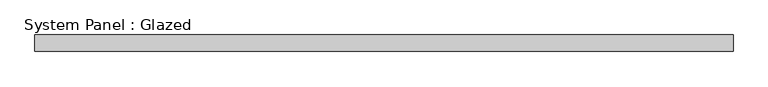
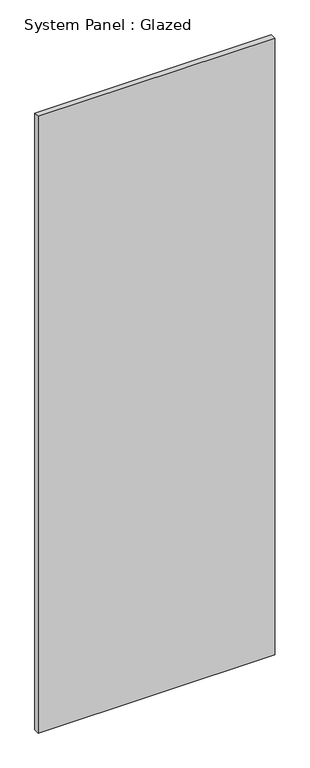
"""IFC4 building model written with IfcOpenShell, lengths in millimetres: plate geometry, System Panel : Glazed."""

import ifcopenshell
import ifcopenshell.guid

model = None  # the IFC model being written
_history = None  # IfcOwnerHistory: only IFC2X3 demands one
_inside = {}  # id of a spatial element -> (the spatial element, [elements in it])
_under = {}  # id of a project, library or spatial element -> (it, [spatial elements below it])
_declared = {}  # id of a project -> (the project, [libraries it declares])
_typed = {}  # id of a type object -> (the type object, [elements of that type])
_made_of = {}  # id of a material, layer set ... -> (it, [elements and type objects made of it])


def new_model(schema):
    """Start an empty IFC model of exactly this schema.

    Asked for "IFC4X3", IfcOpenShell would pick the latest addendum, in which some entities
    have other attributes; the version numbers below select the first issue.
    IFC2X3 requires an IfcOwnerHistory on every rooted entity: one is made here for all.
    """
    global model, _history
    if schema == "IFC4X3":
        model = ifcopenshell.file(schema_version=(4, 3, 0, 0))
    else:
        model = ifcopenshell.file(schema=schema)
    _inside.clear()
    _under.clear()
    _declared.clear()
    _typed.clear()
    _made_of.clear()
    _history = None
    if model.schema == "IFC2X3":
        org = make("IfcOrganization", Name="unknown")
        user = make(
            "IfcPersonAndOrganization",
            ThePerson=make("IfcPerson", FamilyName="unknown"),
            TheOrganization=org,
        )
        app = make(
            "IfcApplication",
            ApplicationDeveloper=org,
            Version="unknown",
            ApplicationFullName="unknown",
            ApplicationIdentifier="unknown",
        )
        _history = make(
            "IfcOwnerHistory",
            OwningUser=user,
            OwningApplication=app,
            ChangeAction="ADDED",
            CreationDate=0,
        )
    return model


def make(cls, **values):
    """One entity of the class cls with the attributes given. An attribute that is None is left unset."""
    return model.create_entity(
        cls, **{name: value for name, value in values.items() if value is not None}
    )


def rooted(cls, **values):
    """An entity with a GlobalId (a new one), such as an element, a storey or a relation."""
    return make(cls, GlobalId=ifcopenshell.guid.new(), OwnerHistory=_history, **values)


def si_unit(unit_type, name, prefix=None):
    """IfcSIUnit, for example si_unit("LENGTHUNIT", "METRE", prefix="MILLI")."""
    return make("IfcSIUnit", UnitType=unit_type, Prefix=prefix, Name=name)


def assignment(units):
    """IfcUnitAssignment: the units of a project."""
    return None if units is None else make("IfcUnitAssignment", Units=units)


def point(xyz):
    """IfcCartesianPoint."""
    return None if xyz is None else make("IfcCartesianPoint", Coordinates=xyz)


def direction(xyz):
    """IfcDirection."""
    return None if xyz is None else make("IfcDirection", DirectionRatios=xyz)


def frame(location, z_axis=None, x_axis=None):
    """IfcAxis2Placement3D, a coordinate frame: its origin and axes. An axis left out is left unset."""
    return make(
        "IfcAxis2Placement3D",
        Location=point(location),
        Axis=direction(z_axis),
        RefDirection=direction(x_axis),
    )


def origin():
    """The frame at (0, 0, 0) with its axes left unset."""
    return frame((0.0, 0.0, 0.0))


def origin_with_axes():
    """The frame at (0, 0, 0) with the z axis (0, 0, 1) and the x axis (1, 0, 0) written out."""
    return frame((0.0, 0.0, 0.0), z_axis=(0.0, 0.0, 1.0), x_axis=(1.0, 0.0, 0.0))


def place(relative_to, where):
    """IfcLocalPlacement: puts the frame where relative to a parent placement (None: the world)."""
    return make(
        "IfcLocalPlacement", PlacementRelTo=relative_to, RelativePlacement=where
    )


def context(
    kind, dimensions, precision=None, world=None, true_north=None, identifier=None
):
    """IfcGeometricRepresentationContext, for example the 3D "Model" context."""
    return make(
        "IfcGeometricRepresentationContext",
        ContextIdentifier=identifier,
        ContextType=kind,
        CoordinateSpaceDimension=dimensions,
        Precision=precision,
        WorldCoordinateSystem=world,
        TrueNorth=true_north,
    )


def project(units=None, contexts=None):
    """IfcProject with its units and contexts."""
    return rooted(
        "IfcProject",
        Name="project",
        RepresentationContexts=contexts,
        UnitsInContext=assignment(units),
    )


def spatial(cls, under=None, at=None, **own):
    """A site, building, storey or space (cls), placed at a placement, below another one or the project."""
    s = rooted(cls, ObjectPlacement=at, **own)
    if under is not None:
        _under.setdefault(under.id(), (under, []))[1].append(s)
    return s


def polyline(points):
    """IfcPolyline through the points."""
    return make("IfcPolyline", Points=[point(p) for p in points])


def outline(outer, holes=None, kind="AREA"):
    """IfcArbitraryClosedProfileDef: a profile drawn as a closed curve; with holes, ...WithVoids."""
    if holes is None:
        return make("IfcArbitraryClosedProfileDef", ProfileType=kind, OuterCurve=outer)
    return make(
        "IfcArbitraryProfileDefWithVoids",
        ProfileType=kind,
        OuterCurve=outer,
        InnerCurves=holes,
    )


def extrude(swept, where, along, depth):
    """IfcExtrudedAreaSolid: the profile swept, set in the frame where, extruded along a direction by depth."""
    return make(
        "IfcExtrudedAreaSolid",
        SweptArea=swept,
        Position=where,
        ExtrudedDirection=direction(along),
        Depth=depth,
    )


def shape(context_of_items, identifier, shape_type, items):
    """IfcShapeRepresentation: the items that make up one representation, for example the "Body"."""
    return make(
        "IfcShapeRepresentation",
        ContextOfItems=context_of_items,
        RepresentationIdentifier=identifier,
        RepresentationType=shape_type,
        Items=items,
    )


def source(mapping_origin, context_of_items, identifier, shape_type, items):
    """IfcRepresentationMap: a shape defined once, which mapped items show again and again."""
    return make(
        "IfcRepresentationMap",
        MappingOrigin=mapping_origin,
        MappedRepresentation=shape(context_of_items, identifier, shape_type, items),
    )


def transform(
    local_origin,
    x_axis=None,
    y_axis=None,
    z_axis=None,
    scale=None,
    scale2=None,
    scale3=None,
    uniform=True,
):
    """IfcCartesianTransformationOperator3D, or its non-uniform kind. x_axis, y_axis, z_axis: its Axis1, 2, 3."""
    if uniform:
        return make(
            "IfcCartesianTransformationOperator3D",
            Axis1=direction(x_axis),
            Axis2=direction(y_axis),
            LocalOrigin=point(local_origin),
            Scale=scale,
            Axis3=direction(z_axis),
        )
    return make(
        "IfcCartesianTransformationOperator3DnonUniform",
        Axis1=direction(x_axis),
        Axis2=direction(y_axis),
        LocalOrigin=point(local_origin),
        Scale=scale,
        Axis3=direction(z_axis),
        Scale2=scale2,
        Scale3=scale3,
    )


def mapped(mapping_source, mapping_target):
    """IfcMappedItem: shows the shape of a source again, moved by a transform."""
    return make(
        "IfcMappedItem", MappingSource=mapping_source, MappingTarget=mapping_target
    )


def made_of(thing, what):
    """Note that an element or type object is made of a material, layer set ...; save() writes the relation."""
    if what is not None:
        _made_of.setdefault(what.id(), (what, []))[1].append(thing)
    return thing


def element(
    cls,
    number,
    at=None,
    inside=None,
    cuts=None,
    type_object=None,
    material=None,
    context=None,
    identifier="Body",
    shape_type=None,
    held_by="IfcProductDefinitionShape",
    body=None,
    shapes=None,
    **own,
):
    """One element of the class cls, such as IfcWall. Its Tag is "e" and its number.

    at: its placement. inside: the storey or other place that contains it. cuts: it is an
    opening in that element (IfcRelVoidsElement). A single representation is given by context,
    identifier, shape_type and body (its items); several are given by shapes. held_by: the class
    of the entity that holds the representations. save() writes the other relations.
    """
    e = rooted(cls, Tag="e%d" % number, ObjectPlacement=at, **own)
    if body is not None:
        shapes = [shape(context, identifier, shape_type, body)]
    if shapes is not None:
        e.Representation = make(held_by, Representations=shapes)
    if inside is not None:
        _inside.setdefault(inside.id(), (inside, []))[1].append(e)
    if cuts is not None:
        rooted(
            "IfcRelVoidsElement", RelatingBuildingElement=cuts, RelatedOpeningElement=e
        )
    if type_object is not None:
        _typed.setdefault(type_object.id(), (type_object, []))[1].append(e)
    return made_of(e, material)


def aggregate(whole, parts):
    """IfcRelAggregates: a whole, such as a stair, and the parts it consists of."""
    return rooted("IfcRelAggregates", RelatingObject=whole, RelatedObjects=parts)


def save(model, path):
    """Write the relations noted so far, then the file.

    IfcRelAggregates (storeys below a building ...), IfcRelContainedInSpatialStructure (elements
    in a storey), IfcRelDefinesByType, IfcRelAssociatesMaterial and IfcRelDeclares: one each for
    every whole, place, type object, material and project.
    """
    for whole, parts in _under.values():
        aggregate(whole, parts)
    for where, things in _inside.values():
        rooted(
            "IfcRelContainedInSpatialStructure",
            RelatedElements=things,
            RelatingStructure=where,
        )
    for kind, things in _typed.values():
        rooted("IfcRelDefinesByType", RelatedObjects=things, RelatingType=kind)
    for what, things in _made_of.values():
        rooted("IfcRelAssociatesMaterial", RelatedObjects=things, RelatingMaterial=what)
    for by, libraries in _declared.values():
        rooted("IfcRelDeclares", RelatingContext=by, RelatedDefinitions=libraries)
    model.write(path)


def system_panel_glazed_c6290a8b(model_context):
    return source(origin(), model_context, "Body", "SweptSolid", [
        extrude(outline(polyline([(541.3375001, -44.45), (-541.3375001, -44.45), (-541.3375001, -19.05), (541.3375001, -19.05), (541.3375001, -44.45)])), origin_with_axes(), (0.0, 0.0, 1.0), 2984.5),
    ])


if __name__ == "__main__":
    model = new_model("IFC4")
    model_context = context("Model", 3, world=origin())
    ifc_project = project(units=[si_unit("LENGTHUNIT", "METRE", prefix="MILLI")], contexts=[model_context])
    site = spatial("IfcSite", under=ifc_project)
    building = spatial("IfcBuilding", under=site)
    placement = place(None, origin())
    system_panel_glazed_shape = system_panel_glazed_c6290a8b(model_context)
    element("IfcPlate", 1, ObjectType="System Panel : Glazed", at=placement, inside=building, context=model_context, shape_type="MappedRepresentation", body=[
        mapped(system_panel_glazed_shape, transform((0.0, 0.0, 0.0), x_axis=(1.0, 0.0, 0.0), y_axis=(0.0, 1.0, 0.0), z_axis=(0.0, 0.0, 1.0))),
    ])
    save(model, "model.ifc")
